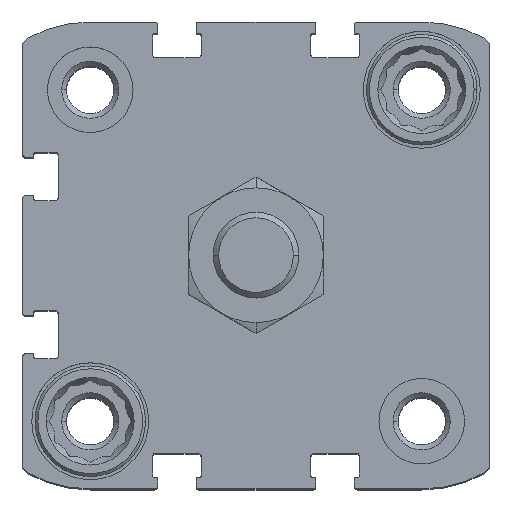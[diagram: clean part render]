
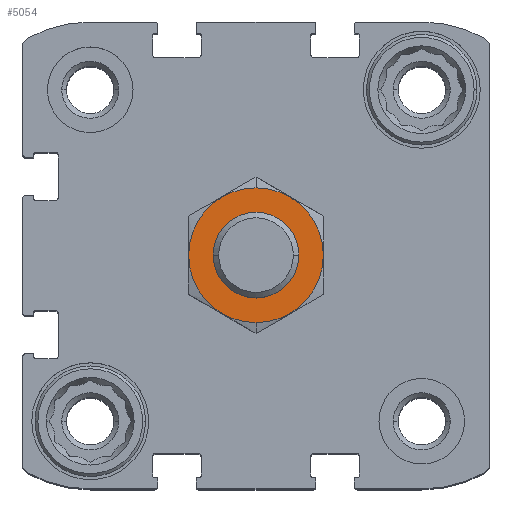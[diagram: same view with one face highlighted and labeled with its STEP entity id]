
A CAD part, top view. The second image highlights one B-rep face of the part: STEP entity #5054.
In plain terms, the highlighted planar face has unit normal (0, 0, 1).
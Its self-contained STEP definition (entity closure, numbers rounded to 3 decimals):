
#183 = DIRECTION ( 'NONE',  ( 0., 0., -1. ) ) ;
#467 = AXIS2_PLACEMENT_3D ( 'NONE', #9248, #6556, #11609 ) ;
#998 = ORIENTED_EDGE ( 'NONE', *, *, #6593, .T. ) ;
#1203 = ORIENTED_EDGE ( 'NONE', *, *, #16294, .T. ) ;
#1398 = EDGE_CURVE ( 'NONE', #2391, #12653, #13846, .T. ) ;
#1462 = AXIS2_PLACEMENT_3D ( 'NONE', #12100, #183, #12191 ) ;
#1722 = ORIENTED_EDGE ( 'NONE', *, *, #15532, .F. ) ;
#2391 = VERTEX_POINT ( 'NONE', #7264 ) ;
#3322 = DIRECTION ( 'NONE',  ( 0., 1., 0. ) ) ;
#3547 = AXIS2_PLACEMENT_3D ( 'NONE', #3727, #11384, #7551 ) ;
#3643 = DIRECTION ( 'NONE',  ( 0., 1., 0. ) ) ;
#3727 = CARTESIAN_POINT ( 'NONE',  ( 0., 0., 19.5 ) ) ;
#3824 = DIRECTION ( 'NONE',  ( 0., 0., -1. ) ) ;
#4112 = CIRCLE ( 'NONE', #3547, 6. ) ;
#4469 = CIRCLE ( 'NONE', #14209, 6. ) ;
#4639 = CARTESIAN_POINT ( 'NONE',  ( 0., 6., 19.5 ) ) ;
#5054 = ADVANCED_FACE ( 'NONE', ( #14704, #10531 ), #9566, .F. ) ;
#5602 = CARTESIAN_POINT ( 'NONE',  ( 0., 0., 19.5 ) ) ;
#6224 = CARTESIAN_POINT ( 'NONE',  ( 0., 9.45, 19.5 ) ) ;
#6556 = DIRECTION ( 'NONE',  ( 0., 0., -1. ) ) ;
#6593 = EDGE_CURVE ( 'NONE', #13113, #15980, #4469, .T. ) ;
#6994 = EDGE_LOOP ( 'NONE', ( #1203, #998 ) ) ;
#7264 = CARTESIAN_POINT ( 'NONE',  ( 0., -9.45, 19.5 ) ) ;
#7551 = DIRECTION ( 'NONE',  ( 0., 1., 0. ) ) ;
#7746 = AXIS2_PLACEMENT_3D ( 'NONE', #16552, #9936, #3322 ) ;
#7972 = CIRCLE ( 'NONE', #467, 9.45 ) ;
#9248 = CARTESIAN_POINT ( 'NONE',  ( 0., 0., 19.5 ) ) ;
#9566 = PLANE ( 'NONE',  #1462 ) ;
#9936 = DIRECTION ( 'NONE',  ( 0., 0., -1. ) ) ;
#10531 = FACE_BOUND ( 'NONE', #6994, .T. ) ;
#11384 = DIRECTION ( 'NONE',  ( 0., 0., -1. ) ) ;
#11609 = DIRECTION ( 'NONE',  ( 0., 1., 0. ) ) ;
#12100 = CARTESIAN_POINT ( 'NONE',  ( 0., 0., 19.5 ) ) ;
#12191 = DIRECTION ( 'NONE',  ( 0., 1., 0. ) ) ;
#12653 = VERTEX_POINT ( 'NONE', #6224 ) ;
#12883 = CARTESIAN_POINT ( 'NONE',  ( 0., -6., 19.5 ) ) ;
#13113 = VERTEX_POINT ( 'NONE', #4639 ) ;
#13846 = CIRCLE ( 'NONE', #7746, 9.45 ) ;
#14101 = ORIENTED_EDGE ( 'NONE', *, *, #1398, .F. ) ;
#14209 = AXIS2_PLACEMENT_3D ( 'NONE', #5602, #3824, #3643 ) ;
#14704 = FACE_OUTER_BOUND ( 'NONE', #17091, .T. ) ;
#15532 = EDGE_CURVE ( 'NONE', #12653, #2391, #7972, .T. ) ;
#15980 = VERTEX_POINT ( 'NONE', #12883 ) ;
#16294 = EDGE_CURVE ( 'NONE', #15980, #13113, #4112, .T. ) ;
#16552 = CARTESIAN_POINT ( 'NONE',  ( 0., 0., 19.5 ) ) ;
#17091 = EDGE_LOOP ( 'NONE', ( #1722, #14101 ) ) ;
